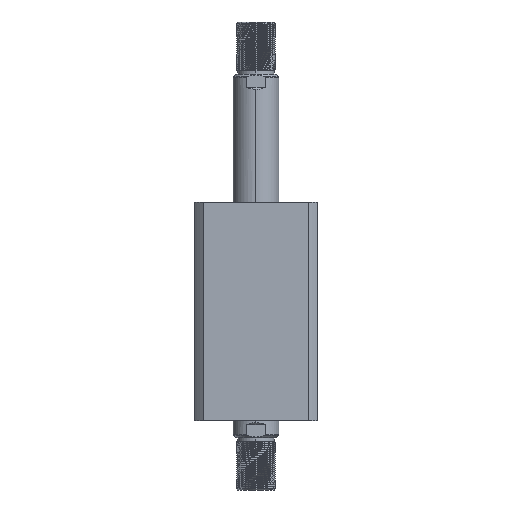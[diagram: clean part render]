
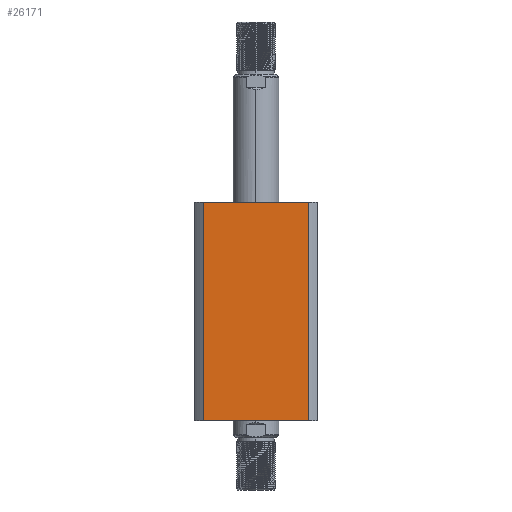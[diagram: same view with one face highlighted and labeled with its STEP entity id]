
A CAD part, left-side view. The second image highlights one B-rep face of the part: STEP entity #26171.
In plain terms, the highlighted planar face has unit normal (-1, 0, 0).
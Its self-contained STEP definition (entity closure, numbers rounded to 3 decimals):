
#935 = EDGE_CURVE ( 'NONE', #13415, #3769, #22427, .T. ) ;
#1926 = ORIENTED_EDGE ( 'NONE', *, *, #935, .F. ) ;
#2072 = AXIS2_PLACEMENT_3D ( 'NONE', #21551, #23873, #11091 ) ;
#3769 = VERTEX_POINT ( 'NONE', #10271 ) ;
#4163 = EDGE_CURVE ( 'NONE', #5350, #13415, #22030, .T. ) ;
#5350 = VERTEX_POINT ( 'NONE', #24367 ) ;
#5365 = VECTOR ( 'NONE', #26634, 1000. ) ;
#5761 = CARTESIAN_POINT ( 'NONE',  ( -47., 40.435, 0. ) ) ;
#6497 = ORIENTED_EDGE ( 'NONE', *, *, #16661, .F. ) ;
#6880 = CARTESIAN_POINT ( 'NONE',  ( -47., 47., 0. ) ) ;
#7308 = CARTESIAN_POINT ( 'NONE',  ( -47., -40.435, 300. ) ) ;
#7396 = EDGE_CURVE ( 'NONE', #11759, #3769, #20189, .T. ) ;
#8465 = EDGE_LOOP ( 'NONE', ( #1926, #22071, #6497, #13537 ) ) ;
#10271 = CARTESIAN_POINT ( 'NONE',  ( -47., -40.435, 0. ) ) ;
#10804 = DIRECTION ( 'NONE',  ( 0., -1., 0. ) ) ;
#11091 = DIRECTION ( 'NONE',  ( 0., 1., 0. ) ) ;
#11336 = VECTOR ( 'NONE', #11404, 1000. ) ;
#11404 = DIRECTION ( 'NONE',  ( 0., -1., 0. ) ) ;
#11759 = VERTEX_POINT ( 'NONE', #5761 ) ;
#13415 = VERTEX_POINT ( 'NONE', #17915 ) ;
#13537 = ORIENTED_EDGE ( 'NONE', *, *, #7396, .T. ) ;
#14161 = CARTESIAN_POINT ( 'NONE',  ( -47., 40.435, 300. ) ) ;
#16394 = DIRECTION ( 'NONE',  ( 0., 0., 1. ) ) ;
#16661 = EDGE_CURVE ( 'NONE', #11759, #5350, #22411, .T. ) ;
#17595 = FACE_OUTER_BOUND ( 'NONE', #8465, .T. ) ;
#17915 = CARTESIAN_POINT ( 'NONE',  ( -47., -40.435, 167. ) ) ;
#20000 = CARTESIAN_POINT ( 'NONE',  ( -47., 47., 167. ) ) ;
#20189 = LINE ( 'NONE', #6880, #26516 ) ;
#21551 = CARTESIAN_POINT ( 'NONE',  ( -47., 47., 167. ) ) ;
#21737 = PLANE ( 'NONE',  #2072 ) ;
#22030 = LINE ( 'NONE', #20000, #11336 ) ;
#22071 = ORIENTED_EDGE ( 'NONE', *, *, #4163, .F. ) ;
#22411 = LINE ( 'NONE', #14161, #27394 ) ;
#22427 = LINE ( 'NONE', #7308, #5365 ) ;
#23873 = DIRECTION ( 'NONE',  ( 1., 0., 0. ) ) ;
#24367 = CARTESIAN_POINT ( 'NONE',  ( -47., 40.435, 167. ) ) ;
#26171 = ADVANCED_FACE ( 'NONE', ( #17595 ), #21737, .F. ) ;
#26516 = VECTOR ( 'NONE', #10804, 1000. ) ;
#26634 = DIRECTION ( 'NONE',  ( 0., 0., -1. ) ) ;
#27394 = VECTOR ( 'NONE', #16394, 1000. ) ;
